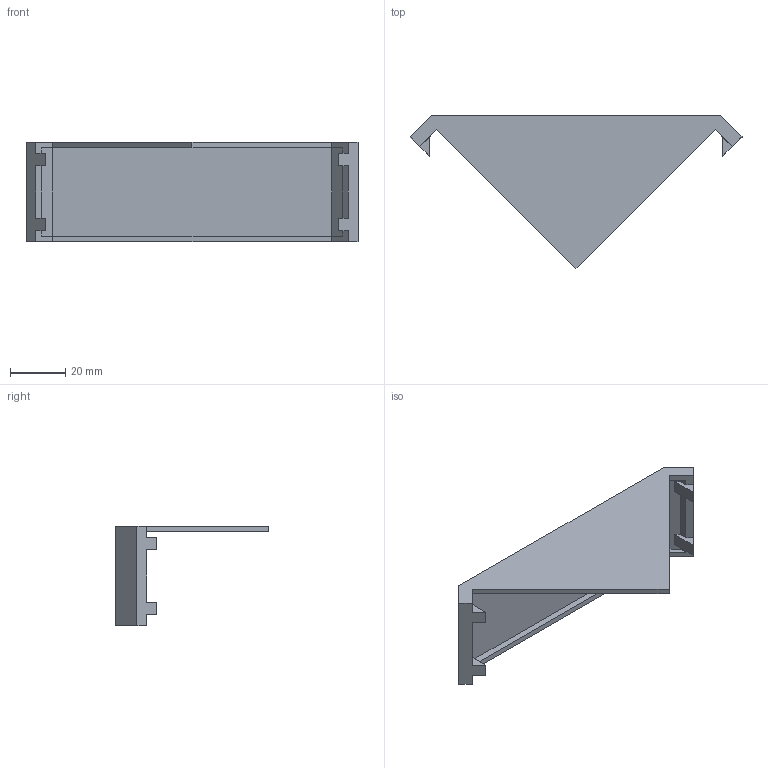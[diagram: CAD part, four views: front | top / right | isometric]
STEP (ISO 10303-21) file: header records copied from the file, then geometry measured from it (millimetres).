
FILE_DESCRIPTION (( 'STEP AP203' ), '1' );
FILE_NAME ('1059cap.STEP', '2016-04-09T15:12:09', ( '' ), ( '' ), 'SwSTEP 2.0', 'SolidWorks 2014', '' );
FILE_SCHEMA (( 'CONFIG_CONTROL_DESIGN' ));
Length unit declared in the file: millimetre
Products named in the file (1): 1059cap
Bounding box: 120.41 x 55.43 x 36 mm (x, y, z)
Volume: 18607.3 mm3; surface area: 16564.1 mm2
Topology: 1 solids, 1 shells, 39 faces, 111 edges, 74 vertices
Faces by surface type: plane 39
Entity records: 1322 total; most frequent: CARTESIAN_POINT 225, ORIENTED_EDGE 222, DIRECTION 191, EDGE_CURVE 111, LINE 111, VECTOR 111, VERTEX_POINT 74, AXIS2_PLACEMENT_3D 40
